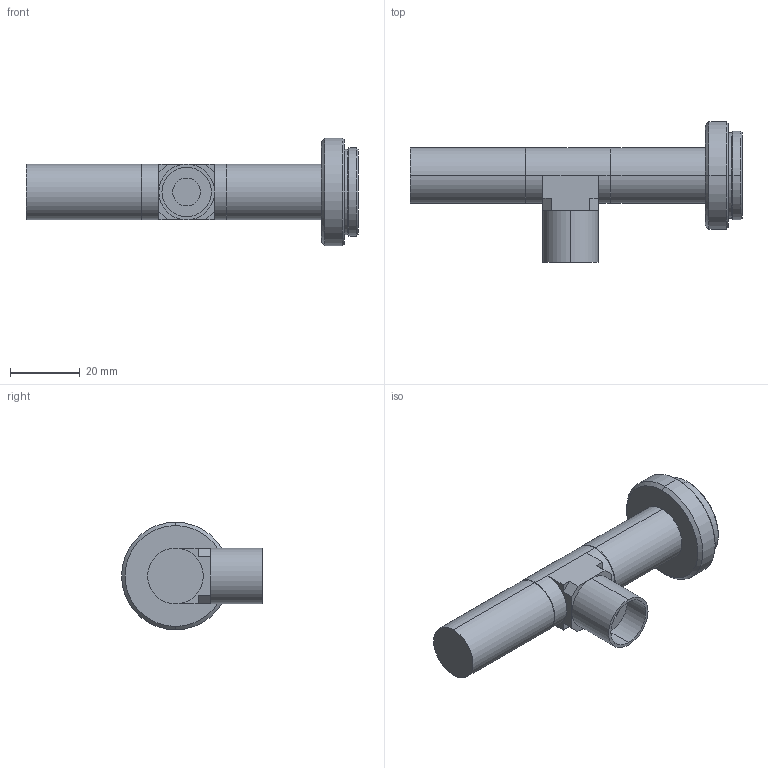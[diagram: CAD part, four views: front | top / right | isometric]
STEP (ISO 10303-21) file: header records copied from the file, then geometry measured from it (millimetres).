
FILE_DESCRIPTION (( 'STEP AP203' ), '1' );
FILE_NAME ('VS-TC4-110CO-LD.STEP', '2015-01-23T00:29:23', ( 'miura_vst' ), ( '' ), 'SwSTEP 2.0', 'SolidWorks 2014', '' );
FILE_SCHEMA (( 'CONFIG_CONTROL_DESIGN' ));
Length unit declared in the file: millimetre
Products named in the file (1): VS-TC4-110CO-LD
Bounding box: 95.5 x 40.5 x 31 mm (x, y, z)
Volume: 26277.4 mm3; surface area: 8227.4 mm2
Topology: 1 solids, 1 shells, 59 faces, 126 edges, 74 vertices
Faces by surface type: plane 24, cylinder 19, cone 16
Entity records: 1649 total; most frequent: DIRECTION 298, CARTESIAN_POINT 260, ORIENTED_EDGE 252, EDGE_CURVE 126, AXIS2_PLACEMENT_3D 112, LINE 74, VERTEX_POINT 74, VECTOR 74
